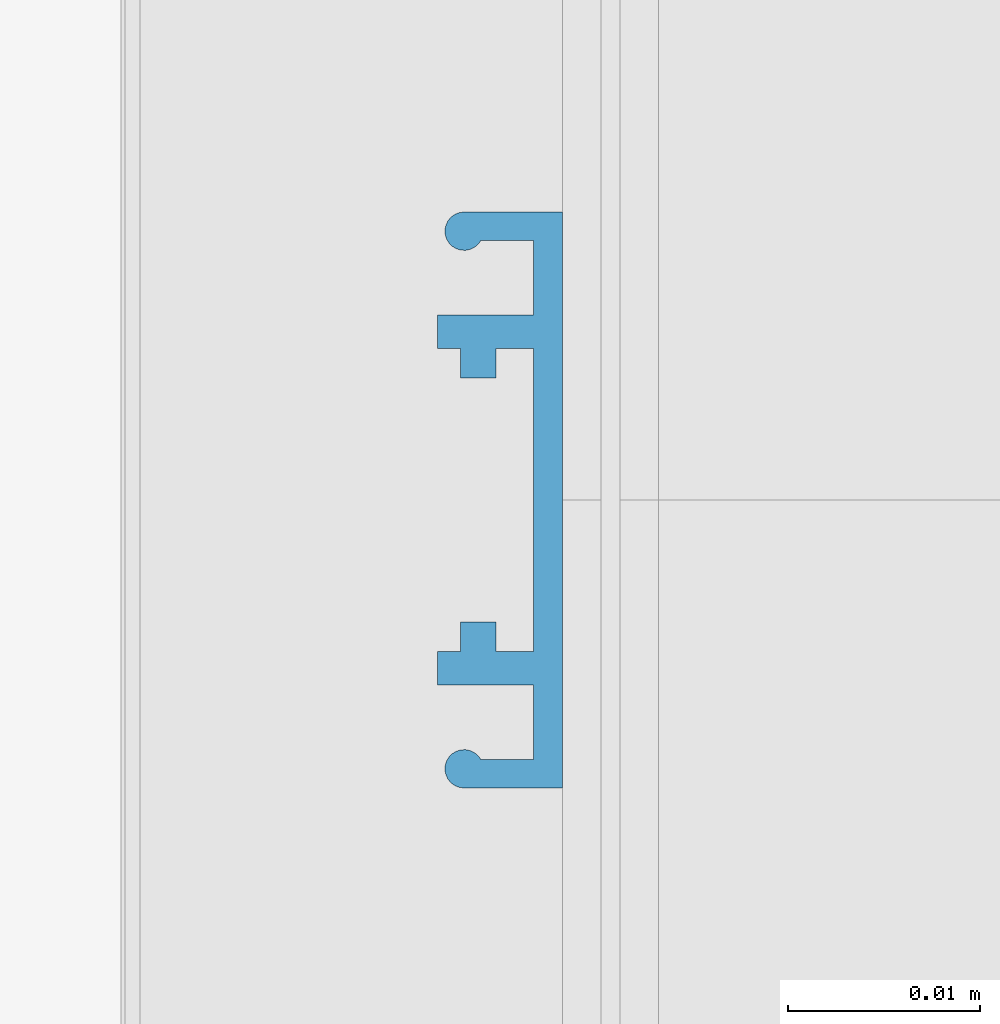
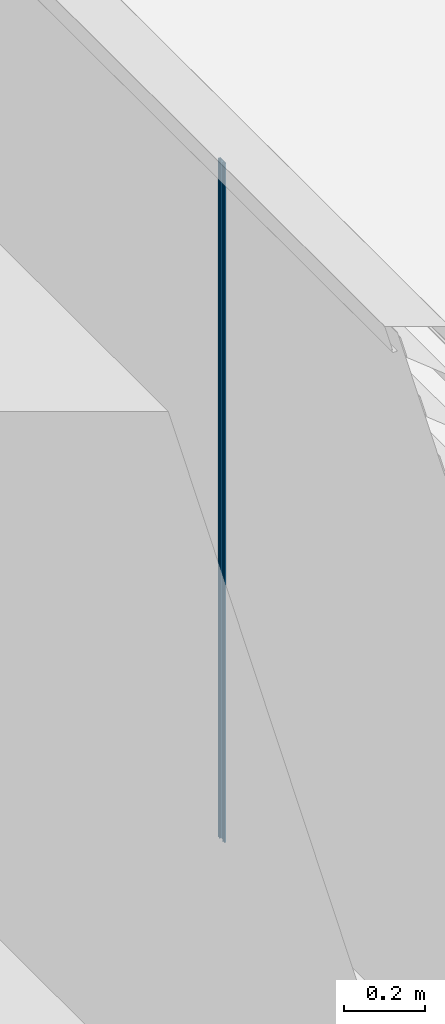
# One storey, part 14 of 32: 1 member, 1 element without a shape of its own.
"""IFC2X3 building model written with IfcOpenShell, lengths in millimetres."""

from ifc_helpers import new_model, entity, si_unit, converted_unit, derived_unit, direction, frame, frame_2d, origin, place, context, subcontext, project, spatial, polyline, circle_curve, parameter, trimmed, segment, composite_curve, outline, extrude, source, transform, mapped, material, type_object, type_shapes, element, aggregate, save


model = new_model("IFC2X3")

# Units and contexts
model_context = context("Model", 3, precision=0.01, world=origin(), true_north=direction((6.123031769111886e-17, 1.0)))
body_context = subcontext(model_context, "Body", "Model", "MODEL_VIEW")
ifc_project = project(units=[si_unit("LENGTHUNIT", "METRE", prefix="MILLI"), si_unit("AREAUNIT", "SQUARE_METRE"), si_unit("VOLUMEUNIT", "CUBIC_METRE"), converted_unit("PLANEANGLEUNIT", "DEGREE", entity("IfcRatioMeasure", 0.017453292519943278), si_unit("PLANEANGLEUNIT", "RADIAN"), dimensions=[0, 0, 0, 0, 0, 0, 0]), si_unit("MASSUNIT", "GRAM", prefix="KILO"), derived_unit("MASSDENSITYUNIT", [(si_unit("MASSUNIT", "GRAM", prefix="KILO"), 1), (si_unit("LENGTHUNIT", "METRE"), -3)]), derived_unit("IONCONCENTRATIONUNIT", [(si_unit("MASSUNIT", "GRAM", prefix="KILO"), 1), (si_unit("LENGTHUNIT", "METRE"), -3)]), derived_unit("MOMENTOFINERTIAUNIT", [(si_unit("LENGTHUNIT", "METRE"), 4)]), si_unit("TIMEUNIT", "SECOND"), si_unit("FREQUENCYUNIT", "HERTZ"), si_unit("THERMODYNAMICTEMPERATUREUNIT", "DEGREE_CELSIUS"), derived_unit("THERMALTRANSMITTANCEUNIT", [(si_unit("MASSUNIT", "GRAM", prefix="KILO"), 1), (si_unit("THERMODYNAMICTEMPERATUREUNIT", "KELVIN"), -1), (si_unit("TIMEUNIT", "SECOND"), -3)]), derived_unit("THERMALCONDUCTANCEUNIT", [(si_unit("MASSUNIT", "GRAM", prefix="KILO"), 1), (si_unit("THERMODYNAMICTEMPERATUREUNIT", "KELVIN"), -1), (si_unit("TIMEUNIT", "SECOND"), -3), (si_unit("LENGTHUNIT", "METRE"), 1)]), derived_unit("VOLUMETRICFLOWRATEUNIT", [(si_unit("LENGTHUNIT", "METRE"), 3), (si_unit("TIMEUNIT", "SECOND"), -1)]), derived_unit("MASSFLOWRATEUNIT", [(si_unit("MASSUNIT", "GRAM", prefix="KILO"), 1), (si_unit("TIMEUNIT", "SECOND"), -1)]), derived_unit("ROTATIONALFREQUENCYUNIT", [(si_unit("TIMEUNIT", "SECOND"), -1)]), si_unit("ELECTRICCURRENTUNIT", "AMPERE"), si_unit("ELECTRICVOLTAGEUNIT", "VOLT"), si_unit("POWERUNIT", "WATT"), si_unit("FORCEUNIT", "NEWTON", prefix="KILO"), si_unit("ILLUMINANCEUNIT", "LUX"), si_unit("LUMINOUSFLUXUNIT", "LUMEN"), si_unit("LUMINOUSINTENSITYUNIT", "CANDELA"), derived_unit("USERDEFINED", [(si_unit("MASSUNIT", "GRAM", prefix="KILO"), -1), (si_unit("LENGTHUNIT", "METRE"), -2), (si_unit("TIMEUNIT", "SECOND"), 3), (si_unit("LUMINOUSFLUXUNIT", "LUMEN"), 1)]), derived_unit("USERDEFINED", [(si_unit("MASSUNIT", "GRAM", prefix="KILO"), 1), (si_unit("TIMEUNIT", "SECOND"), -3), (si_unit("LENGTHUNIT", "METRE"), 3), (si_unit("ELECTRICCURRENTUNIT", "AMPERE"), -2)]), derived_unit("SOUNDPOWERUNIT", [(si_unit("MASSUNIT", "GRAM", prefix="KILO"), 1), (si_unit("TIMEUNIT", "SECOND"), -3), (si_unit("LENGTHUNIT", "METRE"), 2)]), derived_unit("SOUNDPRESSUREUNIT", [(si_unit("MASSUNIT", "GRAM", prefix="KILO"), 1), (si_unit("LENGTHUNIT", "METRE"), -1), (si_unit("TIMEUNIT", "SECOND"), -2)]), derived_unit("LINEARVELOCITYUNIT", [(si_unit("LENGTHUNIT", "METRE"), 1), (si_unit("TIMEUNIT", "SECOND"), -1)]), si_unit("PRESSUREUNIT", "PASCAL"), derived_unit("USERDEFINED", [(si_unit("MASSUNIT", "GRAM", prefix="KILO"), 1), (si_unit("LENGTHUNIT", "METRE"), -2), (si_unit("TIMEUNIT", "SECOND"), -2)]), derived_unit("LINEARFORCEUNIT", [(si_unit("MASSUNIT", "GRAM", prefix="KILO"), 1), (si_unit("TIMEUNIT", "SECOND"), -2)]), derived_unit("PLANARFORCEUNIT", [(si_unit("MASSUNIT", "GRAM", prefix="KILO"), 1), (si_unit("LENGTHUNIT", "METRE"), -1), (si_unit("TIMEUNIT", "SECOND"), -2)]), derived_unit("SPECIFICHEATCAPACITYUNIT", [(si_unit("THERMODYNAMICTEMPERATUREUNIT", "KELVIN"), -1), (si_unit("LENGTHUNIT", "METRE"), 2), (si_unit("TIMEUNIT", "SECOND"), -2)]), derived_unit("HEATINGVALUEUNIT", [(si_unit("LENGTHUNIT", "METRE"), 2), (si_unit("TIMEUNIT", "SECOND"), -2)]), derived_unit("VAPORPERMEABILITYUNIT", [(si_unit("LENGTHUNIT", "METRE"), -1), (si_unit("TIMEUNIT", "SECOND"), 1)]), derived_unit("DYNAMICVISCOSITYUNIT", [(si_unit("MASSUNIT", "GRAM", prefix="KILO"), 1), (si_unit("TIMEUNIT", "SECOND"), -1), (si_unit("LENGTHUNIT", "METRE"), -1)]), derived_unit("THERMALEXPANSIONCOEFFICIENTUNIT", [(si_unit("THERMODYNAMICTEMPERATUREUNIT", "KELVIN"), -1)]), derived_unit("MODULUSOFELASTICITYUNIT", [(si_unit("MASSUNIT", "GRAM", prefix="KILO"), 1), (si_unit("LENGTHUNIT", "METRE"), -1), (si_unit("TIMEUNIT", "SECOND"), -2)]), derived_unit("ISOTHERMALMOISTURECAPACITYUNIT", [(si_unit("LENGTHUNIT", "METRE"), 3), (si_unit("MASSUNIT", "GRAM", prefix="KILO"), -1)]), derived_unit("MOISTUREDIFFUSIVITYUNIT", [(si_unit("TIMEUNIT", "SECOND"), -1), (si_unit("LENGTHUNIT", "METRE"), 2)])], contexts=[model_context])

# Site, building, storey
site_placement = place(None, frame((0.0, 300.0, 0.0)))
site = spatial("IfcSite", under=ifc_project, at=site_placement, Name="<Kadastrale nummers>", CompositionType="ELEMENT")
building_placement = place(site_placement, origin())
building = spatial("IfcBuilding", under=site, at=building_placement, CompositionType="ELEMENT")
storey_placement = place(building_placement, frame((0.0, 0.0, 7150.000035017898)))
storey = spatial("IfcBuildingStorey", under=building, at=storey_placement, Name="02 tweede verdieping", CompositionType="ELEMENT", Elevation=7150.000035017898)

# Curtain wall, member
curtain_wall_type = type_object("IfcCurtainWallType", Name="Curtain Wall:NLRS_21_CWA_lamellenwand Linius - L.120 met LD.0065_Storax", PredefinedType="NOTDEFINED")
curtain_wall_placement = place(storey_placement, frame((0.0, 0.0, -7150.000035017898)))
curtain_wall = element("IfcCurtainWall", 1, at=curtain_wall_placement, inside=storey, type_object=curtain_wall_type, Name="Curtain Wall:NLRS_21_CWA_lamellenwand Linius - L.120 met LD.0065_Storax", ObjectType="Curtain Wall:NLRS_21_CWA_lamellenwand Linius - L.120 met LD.0065_Storax")
ifc_material = material(Name="STAAL_RAL 7006")
member_type = type_object("IfcMemberType", Name="Rectangular Mullion:NLRS_21_CWM_drager LD.0065_Storax", PredefinedType="MULLION", material=ifc_material)
shared_shape = source(origin(), body_context, "Body", "SweptSolid", [
    extrude(outline(composite_curve([segment(polyline([(-3.69683409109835, -14.99897597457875), (1.4234637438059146, -14.99897597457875)]), True, "CONTINUOUS"), segment(trimmed(circle_curve(frame_2d((1.4234637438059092, -13.998975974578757), x_axis=(0.0, -1.0)), 1.0000000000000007), [parameter(0.0)], [parameter(241.3401018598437)], True, "PARAMETER"), True, "CONTINUOUS"), segment(polyline([(0.5459816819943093, -13.519366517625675), (-2.196834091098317, -13.519366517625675)]), True, "CONTINUOUS"), segment(polyline([(-2.196834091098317, -13.519366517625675), (-2.196834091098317, -9.646548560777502)]), True, "CONTINUOUS"), segment(polyline([(-2.196834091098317, -9.646548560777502), (2.80316590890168, -9.646548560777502)]), True, "CONTINUOUS"), segment(polyline([(2.80316590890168, -9.646548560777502), (2.80316590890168, -7.885916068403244)]), True, "CONTINUOUS"), segment(polyline([(2.80316590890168, -7.885916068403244), (1.6031201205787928, -7.885916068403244)]), True, "CONTINUOUS"), segment(polyline([(1.6031201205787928, -7.885916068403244), (1.6031201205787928, -6.358836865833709)]), True, "CONTINUOUS"), segment(polyline([(1.6031201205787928, -6.358836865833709), (-0.24734056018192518, -6.358836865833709)]), True, "CONTINUOUS"), segment(polyline([(-0.24734056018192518, -6.358836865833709), (-0.24734056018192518, -7.885916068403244)]), True, "CONTINUOUS"), segment(polyline([(-0.24734056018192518, -7.885916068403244), (-2.1968340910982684, -7.885916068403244)]), True, "CONTINUOUS"), segment(polyline([(-2.1968340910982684, -7.885916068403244), (-2.1968340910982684, 7.887964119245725)]), True, "CONTINUOUS"), segment(polyline([(-2.1968340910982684, 7.887964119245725), (-0.24734056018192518, 7.887964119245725)]), True, "CONTINUOUS"), segment(polyline([(-0.24734056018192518, 7.887964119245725), (-0.24734056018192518, 6.3485966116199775)]), True, "CONTINUOUS"), segment(polyline([(-0.24734056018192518, 6.3485966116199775), (1.6031201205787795, 6.3485966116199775)]), True, "CONTINUOUS"), segment(polyline([(1.6031201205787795, 6.3485966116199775), (1.6031201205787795, 7.887964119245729)]), True, "CONTINUOUS"), segment(polyline([(1.6031201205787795, 7.887964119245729), (2.8031659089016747, 7.887964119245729)]), True, "CONTINUOUS"), segment(polyline([(2.8031659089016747, 7.887964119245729), (2.8031659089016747, 9.64859661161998)]), True, "CONTINUOUS"), segment(polyline([(2.8031659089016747, 9.64859661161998), (-2.196834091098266, 9.64859661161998)]), True, "CONTINUOUS"), segment(polyline([(-2.196834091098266, 9.64859661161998), (-2.196834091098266, 13.52141456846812)]), True, "CONTINUOUS"), segment(polyline([(-2.196834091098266, 13.52141456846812), (0.545981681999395, 13.52141456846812)]), True, "CONTINUOUS"), segment(trimmed(circle_curve(frame_2d((1.4234637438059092, 14.00102402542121), x_axis=(-0.8774820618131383, -0.47960945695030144)), 0.9999999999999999), [parameter(0.0)], [parameter(241.34010185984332)], True, "PARAMETER"), True, "CONTINUOUS"), segment(polyline([(1.423463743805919, 15.001024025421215), (-3.69683409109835, 15.001024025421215)]), True, "CONTINUOUS"), segment(polyline([(-3.69683409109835, 15.001024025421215), (-3.69683409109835, -14.99897597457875)]), True, "CONTINUOUS")], self_intersect=False)), frame((-0.0010240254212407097, -4.696834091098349, -2049.999964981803), z_axis=(0.0, 0.0, 1.0), x_axis=(0.0, -1.0, 0.0)), (0.0, 0.0, 1.0), 2049.999964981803),
])
type_shapes(member_type, [shared_shape])
member_placement = place(curtain_wall_placement, frame((41676.0, 40797.49999999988, 7650.000035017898), z_axis=(0.0, 0.0, -1.0), x_axis=(0.0, 1.0, 0.0)))
member = element("IfcMember", 2, at=member_placement, type_object=member_type, material=ifc_material, Name="Rectangular Mullion:NLRS_21_CWM_drager LD.0065_Storax", ObjectType="Rectangular Mullion:NLRS_21_CWM_drager LD.0065_Storax", context=body_context, shape_type="MappedRepresentation", body=[
    mapped(shared_shape, transform((0.0, 0.0, 0.0), scale=1.0)),
])
aggregate(curtain_wall, [member])

save(model, "model.ifc")
